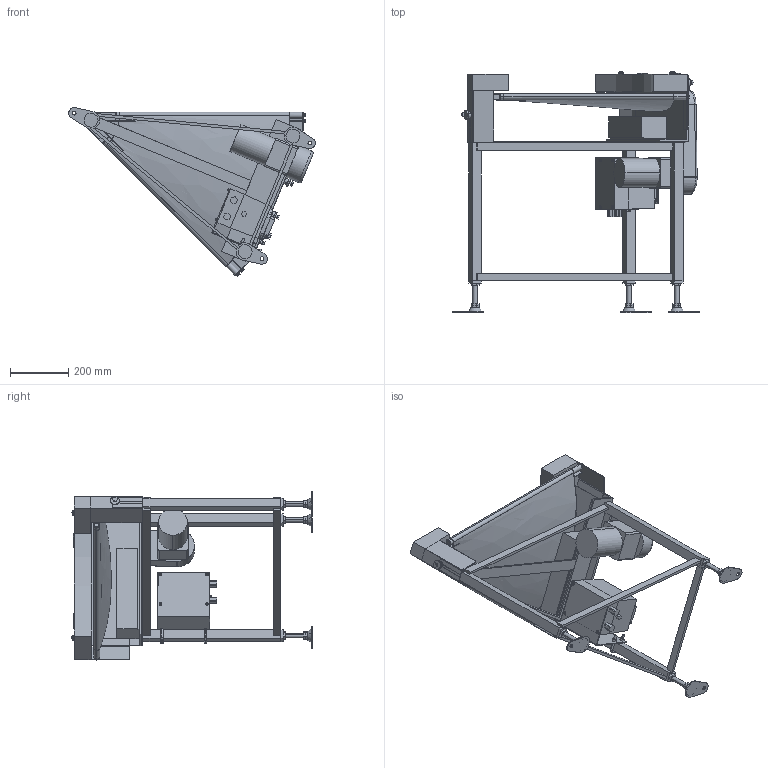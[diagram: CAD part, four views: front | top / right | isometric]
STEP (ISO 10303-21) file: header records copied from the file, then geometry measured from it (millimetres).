
FILE_DESCRIPTION (( 'STEP AP214' ), '1' );
FILE_NAME ('GFBC45-UD500-R.STEP', '2024-01-18T01:52:38', ( '' ), ( '' ), 'SwSTEP 2.0', 'SolidWorks 2017', '' );
FILE_SCHEMA (( 'AUTOMOTIVE_DESIGN' ));
Length unit declared in the file: millimetre
Products named in the file (1): GFBC45-UD500-R
Bounding box: 848.25 x 827.92 x 580.06 mm (x, y, z)
Volume: 18655032.3 mm3; surface area: 3195346.6 mm2
Topology: 54 solids, 55 shells, 1098 faces, 2576 edges, 1665 vertices
Faces by surface type: plane 706, cylinder 316, bspline 44, cone 20, torus 8, sphere 4
Entity records: 39359 total; most frequent: CARTESIAN_POINT 13422, DIRECTION 5198, ORIENTED_EDGE 5120, EDGE_CURVE 2560, AXIS2_PLACEMENT_3D 1744, VECTOR 1710, LINE 1710, VERTEX_POINT 1665
